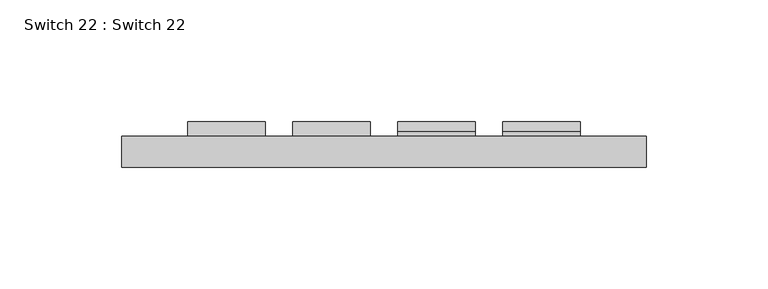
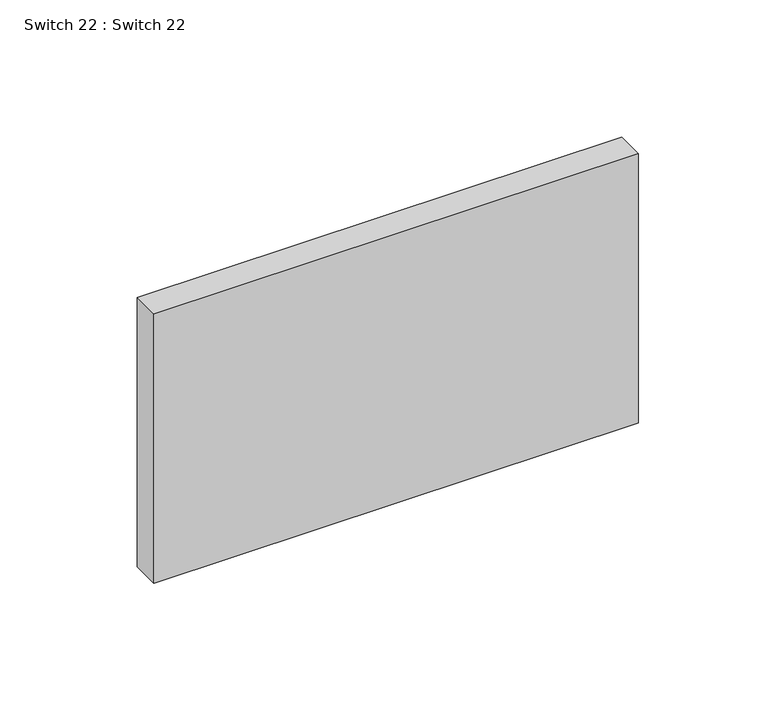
"""IFC4 building model written with IfcOpenShell, lengths in millimetres: proxy geometry, Switch 22 : Switch 22."""

from ifc_helpers import new_model, si_unit, frame, origin, origin_with_axes, place, context, project, spatial, polyline, outline, extrude, source, transform, mapped, element, save


def switch_22_switch_22_d8a24c8f(model_context):
    return source(origin(), model_context, "Body", "SweptSolid", [
        extrude(outline(polyline([(12.7, 30.8840647), (12.7, 96.1159353), (14.659122, 96.1159353), (14.659122, 55.4177809), (18.7773207, 32.0653762), (12.7, 30.8840647)])), frame((66.112642, 0.0, 0.0), z_axis=(1.0, 0.0, 0.0), x_axis=(0.0, 1.0, 0.0)), (0.0, 0.0, 1.0), 31.75),
        extrude(outline(polyline([(12.7, 30.8840647), (12.7, 96.1159353), (14.659122, 96.1159353), (14.659122, 55.4177809), (18.7773207, 32.0653762), (12.7, 30.8840647)])), frame((22.932642, 0.0, 0.0), z_axis=(1.0, 0.0, 0.0), x_axis=(0.0, 1.0, 0.0)), (0.0, 0.0, 1.0), 31.75),
        extrude(outline(polyline([(12.7, 95.7329259), (18.6740726, 94.5716838), (14.659122, 71.8047514), (14.659122, 30.5010553), (12.7, 30.5010553), (12.7, 95.7329259)])), frame((-20.247358, 0.0, 0.0), z_axis=(1.0, 0.0, 0.0), x_axis=(0.0, 1.0, 0.0)), (0.0, 0.0, 1.0), 31.75),
        extrude(outline(polyline([(12.7, 95.7329259), (18.6740726, 94.5716838), (14.659122, 71.8047514), (14.659122, 30.5010553), (12.7, 30.5010553), (12.7, 95.7329259)])), frame((-63.427358, 0.0, 0.0), z_axis=(1.0, 0.0, 0.0), x_axis=(0.0, 1.0, 0.0)), (0.0, 0.0, 1.0), 31.75),
        extrude(outline(polyline([(-90.732358, 12.7), (125.167642, 12.7), (125.167642, 0.0), (-90.732358, 0.0), (-90.732358, 12.7)])), origin_with_axes(), (0.0, 0.0, 1.0), 127.0),
    ])


if __name__ == "__main__":
    model = new_model("IFC4")
    model_context = context("Model", 3, world=origin())
    ifc_project = project(units=[si_unit("LENGTHUNIT", "METRE", prefix="MILLI")], contexts=[model_context])
    site = spatial("IfcSite", under=ifc_project)
    building = spatial("IfcBuilding", under=site)
    placement = place(None, origin())
    switch_22_switch_22_shape = switch_22_switch_22_d8a24c8f(model_context)
    element("IfcBuildingElementProxy", 1, Name="Switch 22 : Switch 22", ObjectType="Switch 22 : Switch 22", at=placement, inside=building, context=model_context, shape_type="MappedRepresentation", body=[
        mapped(switch_22_switch_22_shape, transform((0.0, 0.0, 0.0), x_axis=(1.0, 0.0, 0.0), y_axis=(0.0, 1.0, 0.0), z_axis=(0.0, 0.0, 1.0))),
    ])
    save(model, "model.ifc")
